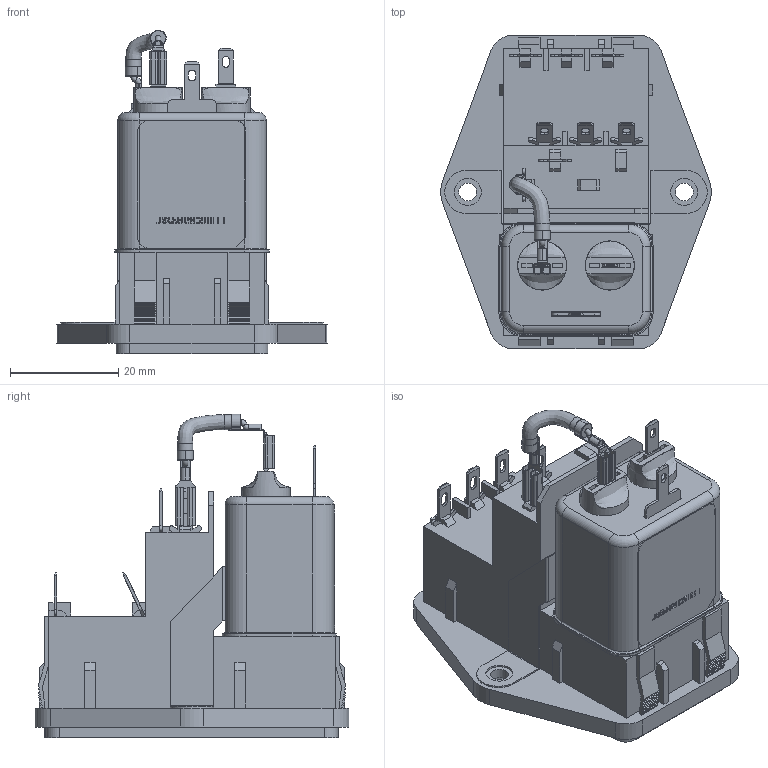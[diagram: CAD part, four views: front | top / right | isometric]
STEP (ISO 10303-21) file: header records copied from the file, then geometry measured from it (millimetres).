
FILE_DESCRIPTION((''),'2;1');
FILE_NAME('D:\_ PRODUCT\New project\3D request\FN376\FN376.stp','2012-10-17T10:15:07',('sayan.penton'),(''),'Autodesk Inventor 2010','Autodesk Inventor 2010','');
FILE_SCHEMA(('AUTOMOTIVE_DESIGN { 1 0 10303 214 1 1 1 1 }'));
Length unit declared in the file: millimetre
Products named in the file (1): Part1
Bounding box: 49.97 x 58 x 59.82 mm (x, y, z)
Volume: 29544.9 mm3; surface area: 24845.4 mm2
Topology: 3 solids, 4 shells, 1214 faces, 3428 edges, 2228 vertices
Faces by surface type: plane 784, bspline 210, cylinder 208, torus 12
Full cylindrical faces by diameter (mm): 1 x2, 1.2 x1, 2.8 x2, 5 x2, 6 x2, 9 x1, 9.1 x2, 12.5 x1
Entity records: 48712 total; most frequent: CARTESIAN_POINT 16565, ORIENTED_EDGE 6788, DIRECTION 5750, EDGE_CURVE 3395, VECTOR 2724, LINE 2724, VERTEX_POINT 2213, AXIS2_PLACEMENT_3D 1513
